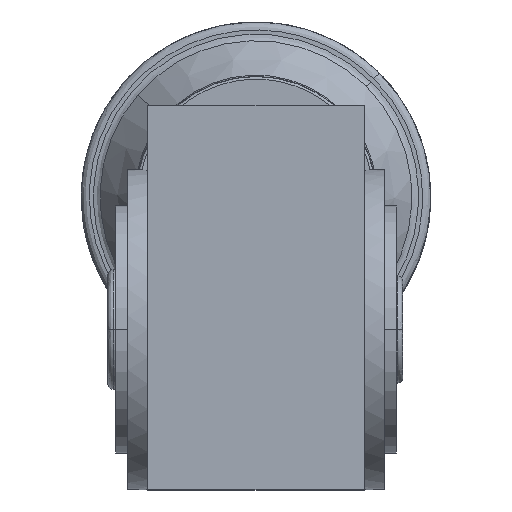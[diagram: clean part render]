
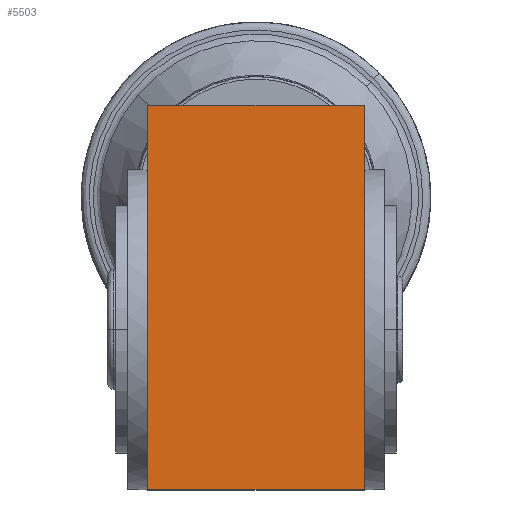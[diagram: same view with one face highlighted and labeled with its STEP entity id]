
A CAD part, top view. The second image highlights one B-rep face of the part: STEP entity #5503.
In plain terms, the highlighted planar face has unit normal (0, 0, 1).
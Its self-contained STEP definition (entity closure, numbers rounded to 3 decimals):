
#215 = ORIENTED_EDGE ( 'NONE', *, *, #6209, .T. ) ;
#232 = ORIENTED_EDGE ( 'NONE', *, *, #6196, .T. ) ;
#238 = ORIENTED_EDGE ( 'NONE', *, *, #6151, .T. ) ;
#240 = ORIENTED_EDGE ( 'NONE', *, *, #6189, .T. ) ;
#242 = ORIENTED_EDGE ( 'NONE', *, *, #6180, .T. ) ;
#247 = ORIENTED_EDGE ( 'NONE', *, *, #6185, .T. ) ;
#1585 = FACE_OUTER_BOUND ( 'NONE', #14492, .T. ) ;
#2145 = AXIS2_PLACEMENT_3D ( 'NONE', #4459, #4477, #4503 ) ;
#4459 = CARTESIAN_POINT ( 'NONE',  ( 0., 84., 60. ) ) ;
#4477 = DIRECTION ( 'NONE',  ( 0., 0., 1. ) ) ;
#4486 = PLANE ( 'NONE',  #2145 ) ;
#4503 = DIRECTION ( 'NONE',  ( 0., -1., 0. ) ) ;
#5503 = ADVANCED_FACE ( 'NONE', ( #1585 ), #4486, .T. ) ;
#6151 = EDGE_CURVE ( 'NONE', #8980, #8970, #10129, .T. ) ;
#6180 = EDGE_CURVE ( 'NONE', #9010, #8958, #10112, .T. ) ;
#6185 = EDGE_CURVE ( 'NONE', #8970, #9010, #10088, .T. ) ;
#6189 = EDGE_CURVE ( 'NONE', #8985, #8998, #10109, .T. ) ;
#6196 = EDGE_CURVE ( 'NONE', #8998, #8980, #10133, .T. ) ;
#6209 = EDGE_CURVE ( 'NONE', #8958, #8985, #10138, .T. ) ;
#8958 = VERTEX_POINT ( 'NONE', #14016 ) ;
#8970 = VERTEX_POINT ( 'NONE', #13987 ) ;
#8980 = VERTEX_POINT ( 'NONE', #13985 ) ;
#8985 = VERTEX_POINT ( 'NONE', #13982 ) ;
#8998 = VERTEX_POINT ( 'NONE', #13980 ) ;
#9010 = VERTEX_POINT ( 'NONE', #13999 ) ;
#10081 = VECTOR ( 'NONE', #11508, 1000. ) ;
#10088 = LINE ( 'NONE', #11441, #10081 ) ;
#10095 = VECTOR ( 'NONE', #11316, 1000. ) ;
#10100 = VECTOR ( 'NONE', #11464, 1000. ) ;
#10109 = LINE ( 'NONE', #11496, #10110 ) ;
#10110 = VECTOR ( 'NONE', #11487, 1000. ) ;
#10112 = LINE ( 'NONE', #11418, #10100 ) ;
#10123 = VECTOR ( 'NONE', #11448, 1000. ) ;
#10129 = LINE ( 'NONE', #11366, #10095 ) ;
#10133 = LINE ( 'NONE', #11472, #10123 ) ;
#10138 = LINE ( 'NONE', #11565, #10140 ) ;
#10140 = VECTOR ( 'NONE', #11544, 1000. ) ;
#11316 = DIRECTION ( 'NONE',  ( 0., 1., 0. ) ) ;
#11366 = CARTESIAN_POINT ( 'NONE',  ( 40.5, 84., 60. ) ) ;
#11418 = CARTESIAN_POINT ( 'NONE',  ( -40.5, 84., 60. ) ) ;
#11441 = CARTESIAN_POINT ( 'NONE',  ( 0., 84., 60. ) ) ;
#11448 = DIRECTION ( 'NONE',  ( 0., 1., 0. ) ) ;
#11464 = DIRECTION ( 'NONE',  ( 0., -1., 0. ) ) ;
#11472 = CARTESIAN_POINT ( 'NONE',  ( 40.5, 84., 60. ) ) ;
#11487 = DIRECTION ( 'NONE',  ( 1., 0., 0. ) ) ;
#11496 = CARTESIAN_POINT ( 'NONE',  ( 0., -60., 60. ) ) ;
#11508 = DIRECTION ( 'NONE',  ( -1., 0., 0. ) ) ;
#11544 = DIRECTION ( 'NONE',  ( 0., -1., 0. ) ) ;
#11565 = CARTESIAN_POINT ( 'NONE',  ( -40.5, 84., 60. ) ) ;
#13980 = CARTESIAN_POINT ( 'NONE',  ( 40.5, -60., 60. ) ) ;
#13982 = CARTESIAN_POINT ( 'NONE',  ( -40.5, -60., 60. ) ) ;
#13985 = CARTESIAN_POINT ( 'NONE',  ( 40.5, 0., 60. ) ) ;
#13987 = CARTESIAN_POINT ( 'NONE',  ( 40.5, 84., 60. ) ) ;
#13999 = CARTESIAN_POINT ( 'NONE',  ( -40.5, 84., 60. ) ) ;
#14016 = CARTESIAN_POINT ( 'NONE',  ( -40.5, 0., 60. ) ) ;
#14492 = EDGE_LOOP ( 'NONE', ( #240, #232, #238, #247, #242, #215 ) ) ;
